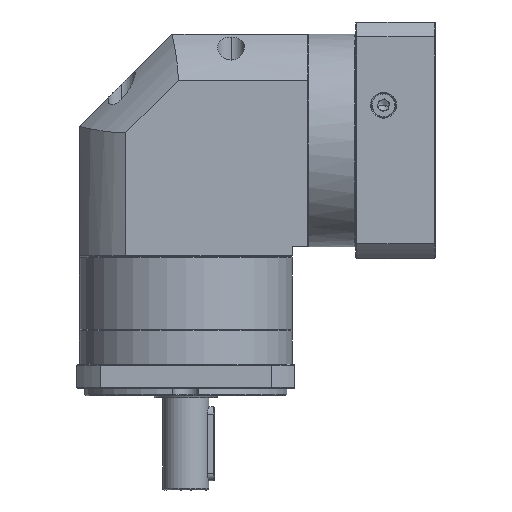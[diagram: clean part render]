
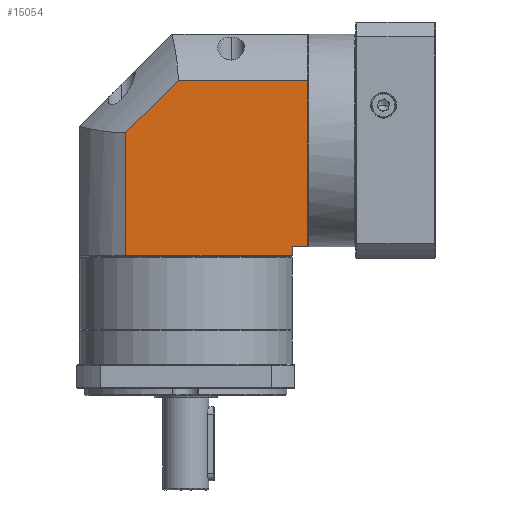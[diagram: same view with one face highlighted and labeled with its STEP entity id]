
A CAD part, front view. The second image highlights one B-rep face of the part: STEP entity #15054.
In plain terms, the highlighted planar face has unit normal (0, -1, 0).
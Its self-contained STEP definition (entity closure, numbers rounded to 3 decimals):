
#2927 = VERTEX_POINT ( 'NONE', #98301 ) ;
#3771 = ORIENTED_EDGE ( 'NONE', *, *, #98666, .F. ) ;
#6174 = EDGE_CURVE ( 'NONE', #76169, #81211, #87420, .T. ) ;
#7627 = VECTOR ( 'NONE', #18770, 1000. ) ;
#15054 = ADVANCED_FACE ( 'NONE', ( #29263 ), #37823, .F. ) ;
#17108 = DIRECTION ( 'NONE',  ( -1., 0., 0. ) ) ;
#18770 = DIRECTION ( 'NONE',  ( 0.707, 0., 0.707 ) ) ;
#19528 = VECTOR ( 'NONE', #66277, 1000. ) ;
#27270 = CARTESIAN_POINT ( 'NONE',  ( 93.813, 1.133, -71.627 ) ) ;
#27716 = VECTOR ( 'NONE', #48744, 1000. ) ;
#28291 = VECTOR ( 'NONE', #17108, 1000. ) ;
#29263 = FACE_OUTER_BOUND ( 'NONE', #50966, .T. ) ;
#36289 = CARTESIAN_POINT ( 'NONE',  ( -4.487, 1.133, -65.127 ) ) ;
#36502 = CARTESIAN_POINT ( 'NONE',  ( -29.587, 1.133, -60.127 ) ) ;
#37482 = VECTOR ( 'NONE', #82047, 1000. ) ;
#37823 = PLANE ( 'NONE',  #88906 ) ;
#38487 = EDGE_CURVE ( 'NONE', #81211, #124562, #132227, .T. ) ;
#39917 = VECTOR ( 'NONE', #120535, 1000. ) ;
#40804 = CARTESIAN_POINT ( 'NONE',  ( 85.413, 1.133, -65.127 ) ) ;
#47589 = ORIENTED_EDGE ( 'NONE', *, *, #60472, .F. ) ;
#48329 = LINE ( 'NONE', #79025, #114785 ) ;
#48744 = DIRECTION ( 'NONE',  ( -1., 0., 0. ) ) ;
#49147 = CARTESIAN_POINT ( 'NONE',  ( -29.587, 1.133, -65.127 ) ) ;
#50966 = EDGE_LOOP ( 'NONE', ( #133550, #117917, #100385, #81740, #3771, #47589, #78660 ) ) ;
#55940 = VERTEX_POINT ( 'NONE', #40804 ) ;
#59471 = CARTESIAN_POINT ( 'NONE',  ( 85.413, 1.133, -60.127 ) ) ;
#60472 = EDGE_CURVE ( 'NONE', #63361, #2927, #94035, .T. ) ;
#61700 = CARTESIAN_POINT ( 'NONE',  ( -29.587, 1.133, -71.627 ) ) ;
#63361 = VERTEX_POINT ( 'NONE', #36289 ) ;
#66277 = DIRECTION ( 'NONE',  ( 1., 0., 0. ) ) ;
#68738 = LINE ( 'NONE', #49147, #28291 ) ;
#71048 = CARTESIAN_POINT ( 'NONE',  ( 23.851, 1.133, 29.773 ) ) ;
#72577 = DIRECTION ( 'NONE',  ( 1., 0., 0. ) ) ;
#76169 = VERTEX_POINT ( 'NONE', #71048 ) ;
#78660 = ORIENTED_EDGE ( 'NONE', *, *, #122976, .F. ) ;
#79025 = CARTESIAN_POINT ( 'NONE',  ( 85.413, 1.133, -71.627 ) ) ;
#79514 = LINE ( 'NONE', #36502, #27716 ) ;
#80790 = CARTESIAN_POINT ( 'NONE',  ( 93.813, 1.133, -60.127 ) ) ;
#81211 = VERTEX_POINT ( 'NONE', #117408 ) ;
#81740 = ORIENTED_EDGE ( 'NONE', *, *, #6174, .F. ) ;
#82047 = DIRECTION ( 'NONE',  ( 0., 0., 1. ) ) ;
#87420 = LINE ( 'NONE', #105304, #19528 ) ;
#88906 = AXIS2_PLACEMENT_3D ( 'NONE', #61700, #114284, #72577 ) ;
#94035 = LINE ( 'NONE', #121546, #37482 ) ;
#98301 = CARTESIAN_POINT ( 'NONE',  ( -4.487, 1.133, 1.435 ) ) ;
#98666 = EDGE_CURVE ( 'NONE', #2927, #76169, #128951, .T. ) ;
#100385 = ORIENTED_EDGE ( 'NONE', *, *, #38487, .F. ) ;
#104863 = VERTEX_POINT ( 'NONE', #59471 ) ;
#105304 = CARTESIAN_POINT ( 'NONE',  ( -29.587, 1.133, 29.773 ) ) ;
#110324 = DIRECTION ( 'NONE',  ( 0., 0., -1. ) ) ;
#114284 = DIRECTION ( 'NONE',  ( 0., 1., 0. ) ) ;
#114785 = VECTOR ( 'NONE', #110324, 1000. ) ;
#117408 = CARTESIAN_POINT ( 'NONE',  ( 93.813, 1.133, 29.773 ) ) ;
#117917 = ORIENTED_EDGE ( 'NONE', *, *, #127301, .F. ) ;
#120373 = EDGE_CURVE ( 'NONE', #104863, #55940, #48329, .T. ) ;
#120535 = DIRECTION ( 'NONE',  ( 0., 0., -1. ) ) ;
#121546 = CARTESIAN_POINT ( 'NONE',  ( -4.487, 1.133, -71.627 ) ) ;
#122976 = EDGE_CURVE ( 'NONE', #55940, #63361, #68738, .T. ) ;
#124562 = VERTEX_POINT ( 'NONE', #80790 ) ;
#127301 = EDGE_CURVE ( 'NONE', #124562, #104863, #79514, .T. ) ;
#128951 = LINE ( 'NONE', #130931, #7627 ) ;
#130931 = CARTESIAN_POINT ( 'NONE',  ( -4.487, 1.133, 1.435 ) ) ;
#132227 = LINE ( 'NONE', #27270, #39917 ) ;
#133550 = ORIENTED_EDGE ( 'NONE', *, *, #120373, .F. ) ;
